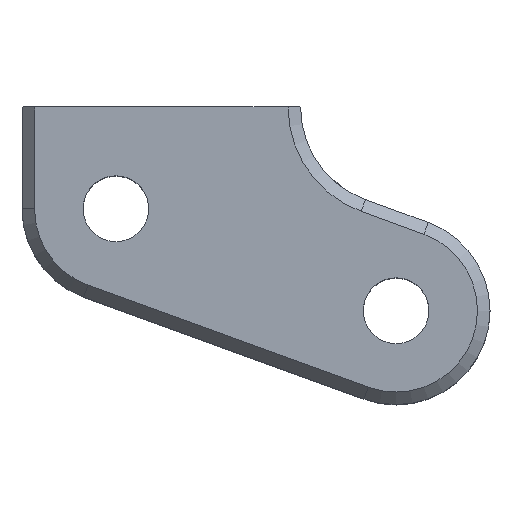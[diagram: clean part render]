
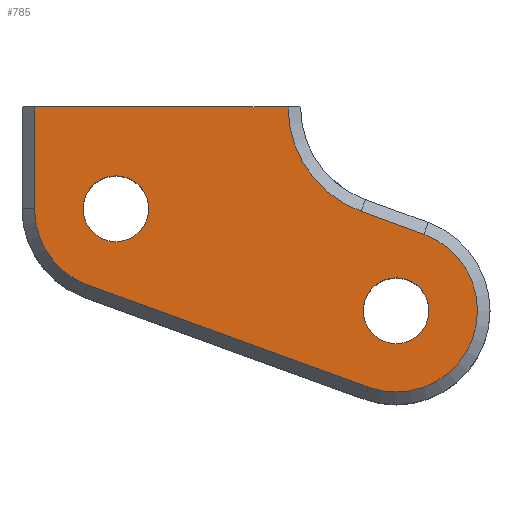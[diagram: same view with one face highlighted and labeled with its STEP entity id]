
A CAD part, top view. The second image highlights one B-rep face of the part: STEP entity #785.
In plain terms, the highlighted planar face has unit normal (0, 0, 1).
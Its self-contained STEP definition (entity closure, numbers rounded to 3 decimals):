
#57=CARTESIAN_POINT('',(79.555,135.787,8.1));
#58=DIRECTION('',(0.,0.,1.));
#59=DIRECTION('',(0.,-1.,0.));
#60=AXIS2_PLACEMENT_3D('',#57,#58,#59);
#61=CIRCLE('',#60,2.1);
#62=CARTESIAN_POINT('',(79.555,133.687,8.1));
#63=VERTEX_POINT('',#62);
#64=EDGE_CURVE('',#63,#63,#61,.F.);
#85=CARTESIAN_POINT('',(97.456,129.271,8.1));
#86=DIRECTION('',(0.,0.,1.));
#87=DIRECTION('',(0.,-1.,0.));
#88=AXIS2_PLACEMENT_3D('',#85,#86,#87);
#89=CIRCLE('',#88,2.1);
#90=CARTESIAN_POINT('',(97.456,127.171,8.1));
#91=VERTEX_POINT('',#90);
#92=EDGE_CURVE('',#91,#91,#89,.F.);
#118=CARTESIAN_POINT('',(99.235,134.158,8.1));
#119=VERTEX_POINT('',#118);
#122=CARTESIAN_POINT('',(97.456,129.271,8.1));
#123=DIRECTION('',(0.,0.,-1.));
#124=DIRECTION('',(0.,1.,0.));
#125=AXIS2_PLACEMENT_3D('',#122,#123,#124);
#126=CIRCLE('',#125,5.2);
#127=CARTESIAN_POINT('',(95.678,124.385,8.1));
#128=VERTEX_POINT('',#127);
#129=EDGE_CURVE('',#128,#119,#126,.F.);
#299=CARTESIAN_POINT('',(74.355,135.787,8.1));
#300=VERTEX_POINT('',#299);
#316=CARTESIAN_POINT('',(77.777,130.9,8.1));
#317=VERTEX_POINT('',#316);
#320=CARTESIAN_POINT('',(79.555,135.787,8.1));
#321=DIRECTION('',(0.,0.,-1.));
#322=DIRECTION('',(0.,1.,0.));
#323=AXIS2_PLACEMENT_3D('',#320,#321,#322);
#324=CIRCLE('',#323,5.2);
#325=EDGE_CURVE('',#317,#300,#324,.T.);
#520=CARTESIAN_POINT('',(79.46,130.287,8.1));
#521=DIRECTION('',(0.94,-0.342,0.));
#522=VECTOR('',#521,1.);
#523=LINE('',#520,#522);
#524=EDGE_CURVE('',#317,#128,#523,.T.);
#540=CARTESIAN_POINT('',(95.225,135.617,8.1));
#541=VERTEX_POINT('',#540);
#544=CARTESIAN_POINT('',(97.551,134.77,8.1));
#545=DIRECTION('',(-0.94,0.342,0.));
#546=VECTOR('',#545,1.);
#547=LINE('',#544,#546);
#548=EDGE_CURVE('',#119,#541,#547,.T.);
#558=CARTESIAN_POINT('',(97.653,142.287,8.1));
#559=DIRECTION('',(0.,0.,1.));
#560=DIRECTION('',(0.,-1.,0.));
#561=AXIS2_PLACEMENT_3D('',#558,#559,#560);
#562=CIRCLE('',#561,7.098);
#563=CARTESIAN_POINT('',(90.555,142.287,8.1));
#564=VERTEX_POINT('',#563);
#565=EDGE_CURVE('',#541,#564,#562,.F.);
#592=CARTESIAN_POINT('',(74.355,129.271,8.1));
#593=DIRECTION('',(0.,-1.,0.));
#594=VECTOR('',#593,1.);
#595=LINE('',#592,#594);
#596=CARTESIAN_POINT('',(74.355,142.287,8.1));
#597=VERTEX_POINT('',#596);
#598=EDGE_CURVE('',#597,#300,#595,.T.);
#760=CARTESIAN_POINT('',(97.456,129.271,8.1));
#761=DIRECTION('',(0.,0.,1.));
#762=DIRECTION('',(0.,-1.,0.));
#763=AXIS2_PLACEMENT_3D('',#760,#761,#762);
#764=PLANE('',#763);
#765=ORIENTED_EDGE('',*,*,#524,.T.);
#766=ORIENTED_EDGE('',*,*,#129,.T.);
#767=ORIENTED_EDGE('',*,*,#548,.T.);
#768=ORIENTED_EDGE('',*,*,#565,.T.);
#769=CARTESIAN_POINT('',(73.555,142.287,8.1));
#770=DIRECTION('',(1.,0.,0.));
#771=VECTOR('',#770,1.);
#772=LINE('',#769,#771);
#773=EDGE_CURVE('',#564,#597,#772,.F.);
#774=ORIENTED_EDGE('',*,*,#773,.T.);
#775=ORIENTED_EDGE('',*,*,#598,.T.);
#776=ORIENTED_EDGE('',*,*,#325,.F.);
#777=EDGE_LOOP('',(#765,#766,#767,#768,#774,#775,#776));
#778=ORIENTED_EDGE('',*,*,#64,.T.);
#779=EDGE_LOOP('',(#778));
#780=ORIENTED_EDGE('',*,*,#92,.T.);
#781=EDGE_LOOP('',(#780));
#782=FACE_OUTER_BOUND('',#777,.T.);
#783=FACE_BOUND('',#779,.T.);
#784=FACE_BOUND('',#781,.T.);
#785=ADVANCED_FACE('',(#782,#783,#784),#764,.T.);
